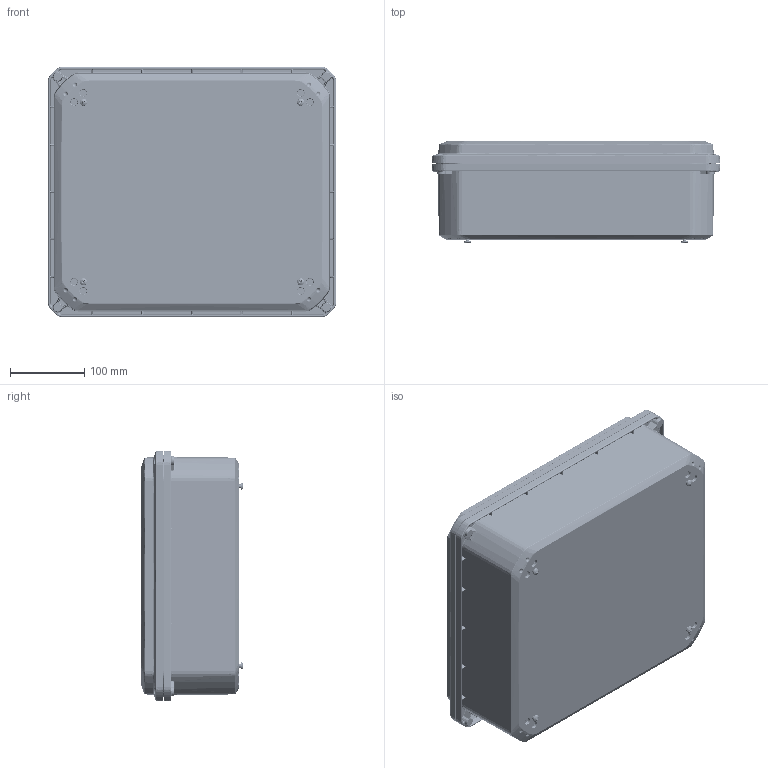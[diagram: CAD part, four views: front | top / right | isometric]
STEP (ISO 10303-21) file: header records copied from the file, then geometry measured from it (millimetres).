
FILE_DESCRIPTION (( 'STEP AP214' ), '1' );
FILE_NAME ('ZQ-141204-94.STEP', '2024-10-25T19:42:41', ( '' ), ( '' ), 'SwSTEP 2.0', 'SolidWorks 2024', '' );
FILE_SCHEMA (( 'AUTOMOTIVE_DESIGN' ));
Length unit declared in the file: inch
Products named in the file (10): ZQ-141204-94; INSERTS-4; Z_-14121CG_ZQ-14121CG-01; Z_-14124B_ZQ-14124B-01; LABEL-104; Z_-14121C_ZQ-14121C-01; SCREWS-047_default; ZH-1412G; Z_-14124BI_ZQ-14124BI-01; SCREWS-049_SCREWS-049
Assembly tree (26 placements, depth 3):
  ZQ-141204-94
    Z_-14124BI_ZQ-14124BI-01
      Z_-14124B_ZQ-14124B-01
      INSERTS-4  x12
      LABEL-104
    Z_-14121CG_ZQ-14121CG-01
      Z_-14121C_ZQ-14121C-01
      ZH-1412G
    SCREWS-047_default  x4
    SCREWS-049_SCREWS-049  x4
Bounding box: 387.1 x 137.95 x 336.3 mm (x, y, z)
Volume: 2049581.2 mm3; surface area: 964583.5 mm2
Topology: 24 solids, 24 shells, 5430 faces, 13334 edges, 7974 vertices
Faces by surface type: bspline 1652, plane 1154, cylinder 1048, cone 832, torus 712, sphere 32
Entity records: 211793 total; most frequent: CARTESIAN_POINT 126822, ORIENTED_EDGE 19588, DIRECTION 15609, EDGE_CURVE 9794, AXIS2_PLACEMENT_3D 6786, VERTEX_POINT 5740, EDGE_LOOP 4372, FACE_OUTER_BOUND 4214
